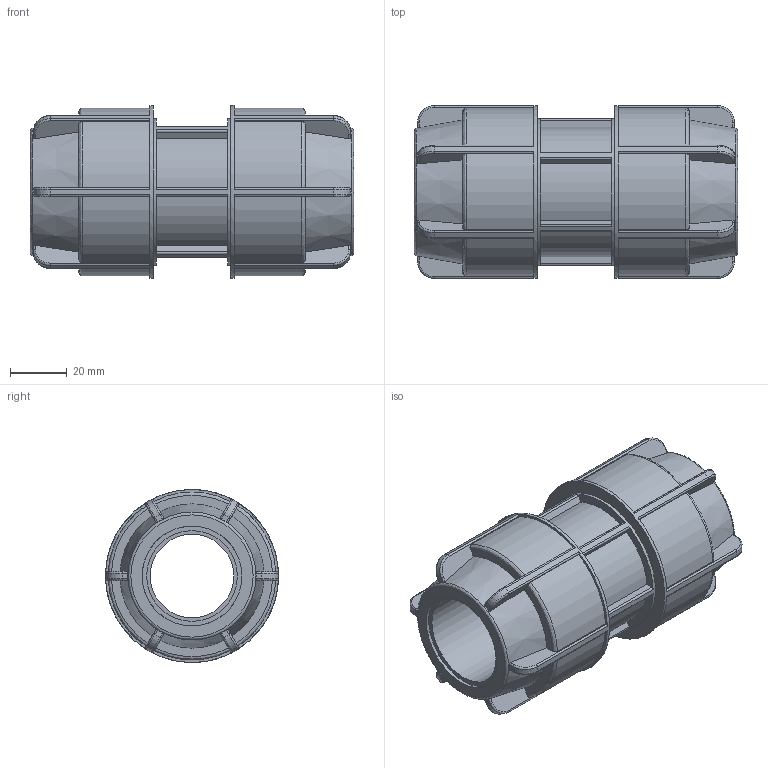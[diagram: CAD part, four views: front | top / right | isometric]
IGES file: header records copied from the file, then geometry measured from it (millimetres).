
Global section: file name: 140100032.ipt; native system: Autodesk Inventor 2015; preprocessor: unknown; author: KIM; date: 20180612.155249; units: millimetre
Bounding box: 114 x 61 x 61 mm (x, y, z)
Volume: 166025.6 mm3; surface area: 39641.9 mm2
Topology: 1 solids, 1 shells, 230 faces, 609 edges, 392 vertices
Faces by surface type: plane 92, cylinder 81, revolution 31, bspline 24, cone 2
Full cylindrical faces by diameter (mm): 51.85 x1, 61 x2
